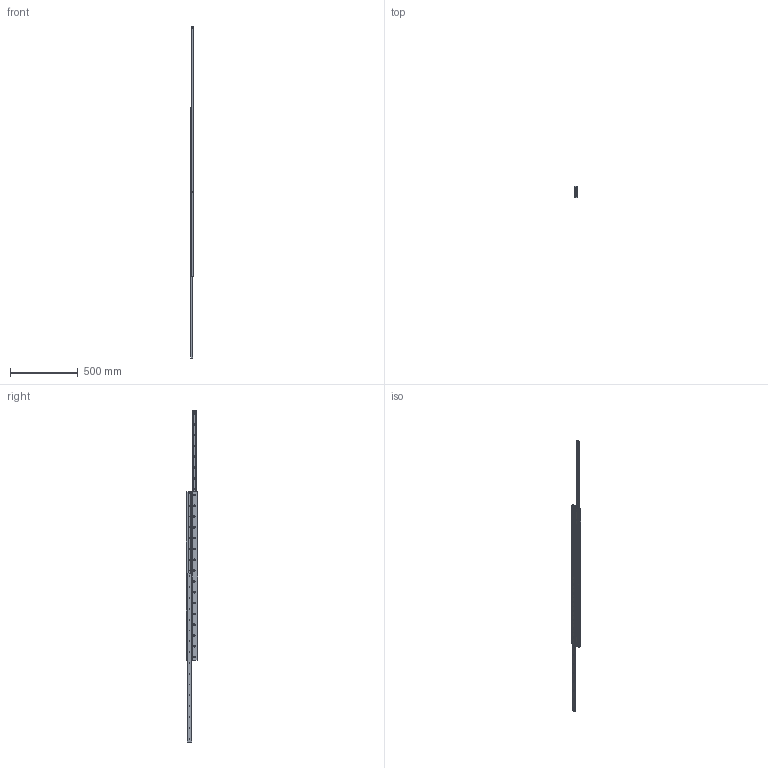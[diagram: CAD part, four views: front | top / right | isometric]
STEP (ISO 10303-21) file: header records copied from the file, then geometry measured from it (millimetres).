
FILE_DESCRIPTION (( 'STEP AP203' ), '1' );
FILE_NAME ('L1984.28D-1250.step', '2018-07-03T12:16:30', ( '' ), ( '' ), 'SwSTEP 2.0', 'SolidWorks 2017', '' );
FILE_SCHEMA (( 'CONFIG_CONTROL_DESIGN' ));
Length unit declared in the file: millimetre
Products named in the file (5): L1984.28D-1250; Part0_L1984.28D-1250; Part2_L1984.28D-1250; Part1_L1984.28D-1250; Part3_L1984.28D-1250
Assembly tree (7 placements, depth 2):
  L1984.28D-1250
    Part0_L1984.28D-1250
    Part2_L1984.28D-1250  x2
    Part1_L1984.28D-1250  x2
    Part3_L1984.28D-1250  x2
Bounding box: 17 x 84 x 2456 mm (x, y, z)
Volume: 1071037.5 mm3; surface area: 736247.3 mm2
Topology: 7 solids, 7 shells, 746 faces, 1882 edges, 1252 vertices
Faces by surface type: plane 488, cylinder 130, cone 128
Entity records: 17156 total; most frequent: CARTESIAN_POINT 2867, DIRECTION 2845, ORIENTED_EDGE 2766, EDGE_CURVE 1383, VECTOR 1049, LINE 1049, VERTEX_POINT 920, AXIS2_PLACEMENT_3D 898
